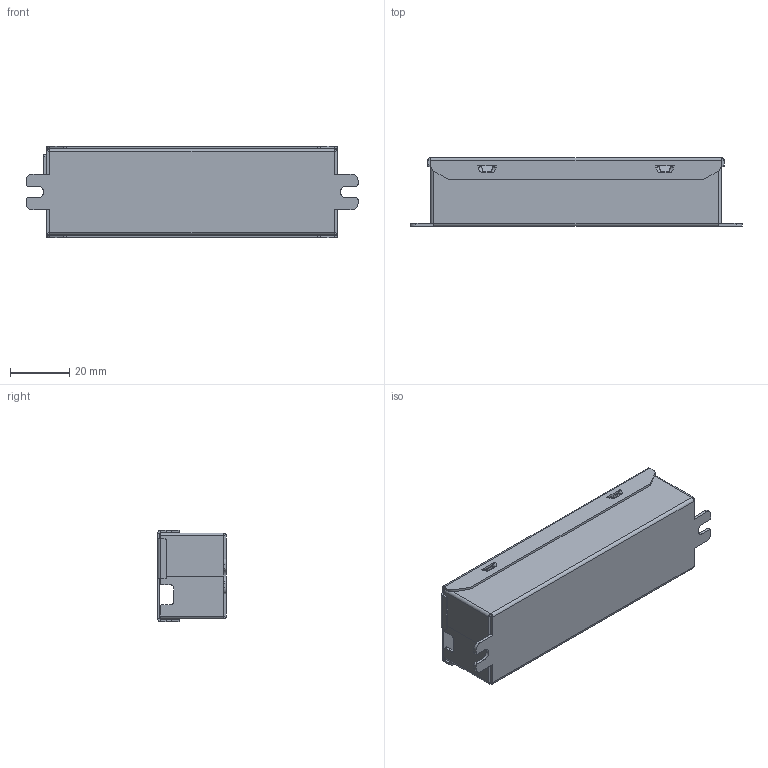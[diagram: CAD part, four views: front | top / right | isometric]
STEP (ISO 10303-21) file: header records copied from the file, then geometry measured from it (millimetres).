
FILE_DESCRIPTION((''),'2;1');
FILE_NAME('SEC030_ASM','2025-08-13T18:04:58',('Administrator'),(''),'CREO PARAMETRIC BY PTC INC, 2020053','CREO PARAMETRIC BY PTC INC, 2020053','');
FILE_SCHEMA(('CONFIG_CONTROL_DESIGN','SHAPE_APPEARANCE_LAYERS_GROUPS'));
Length unit declared in the file: inch
Products named in the file (4): SLC030M-BOTTOM_14; SLC030M-TOP_14; SLC030M_ASM_4_ASM; SEC030_ASM
Assembly tree (3 placements, depth 3):
  SEC030_ASM
    SLC030M_ASM_4_ASM
      SLC030M-BOTTOM_14
      SLC030M-TOP_14
Bounding box: 112 x 23.2 x 31 mm (x, y, z)
Volume: 11462.4 mm3; surface area: 25518 mm2
Topology: 2 solids, 2 shells, 296 faces, 700 edges, 408 vertices
Faces by surface type: plane 174, cylinder 90, bspline 32
Entity records: 15535 total; most frequent: CARTESIAN_POINT 4435, ORIENTED_EDGE 1400, DIRECTION 1314, PRESENTATION_STYLE_ASSIGNMENT 998, STYLED_ITEM 998, CURVE_STYLE 700, EDGE_CURVE 700, VECTOR 504
